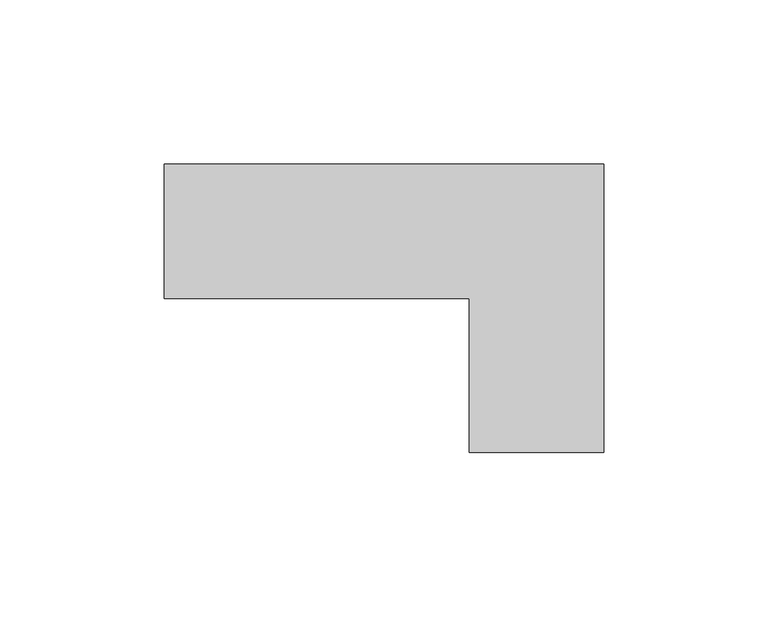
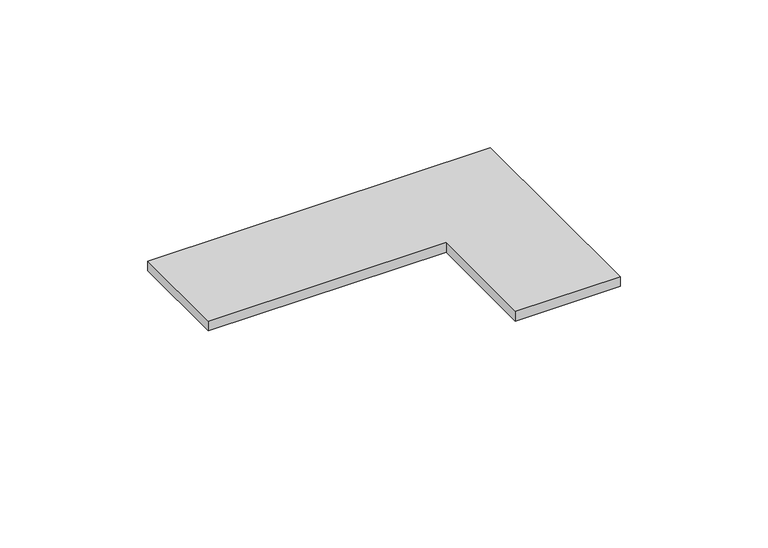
"""IFC4 building model written with IfcOpenShell, lengths in millimetres: proxy geometry, 4182L_Accessory-Basorfix : Basorfix 4182L GC70."""

from ifc_helpers import new_model, si_unit, origin, origin_with_axes, place, context, project, spatial, polyline, outline, extrude, source, transform, mapped, element, save


def generic_models_463445b3(model_context):
    return source(origin(), model_context, "Body", "SweptSolid", [
        extrude(outline(polyline([(67.0040181, -67.5157267), (26.0040181, -67.5157267), (26.0040181, -20.4842733), (-67.0040181, -20.4842733), (-67.0040181, 20.4842733), (67.0040181, 20.4842733), (67.0040181, -67.5157267)])), origin_with_axes(), (0.0, 0.0, 1.0), 4.0),
    ])


if __name__ == "__main__":
    model = new_model("IFC4")
    model_context = context("Model", 3, world=origin())
    ifc_project = project(units=[si_unit("LENGTHUNIT", "METRE", prefix="MILLI")], contexts=[model_context])
    site = spatial("IfcSite", under=ifc_project)
    building = spatial("IfcBuilding", under=site)
    placement = place(None, origin())
    generic_models_shape = generic_models_463445b3(model_context)
    element("IfcBuildingElementProxy", 1, Name="4182L_Accessory-Basorfix : Basorfix 4182L GC70", ObjectType="4182L_Accessory-Basorfix : Basorfix 4182L GC70", at=placement, inside=building, context=model_context, shape_type="MappedRepresentation", body=[
        mapped(generic_models_shape, transform((0.0, 0.0, 0.0), x_axis=(1.0, 0.0, 0.0), y_axis=(0.0, 1.0, 0.0), z_axis=(0.0, 0.0, 1.0))),
    ])
    save(model, "model.ifc")
